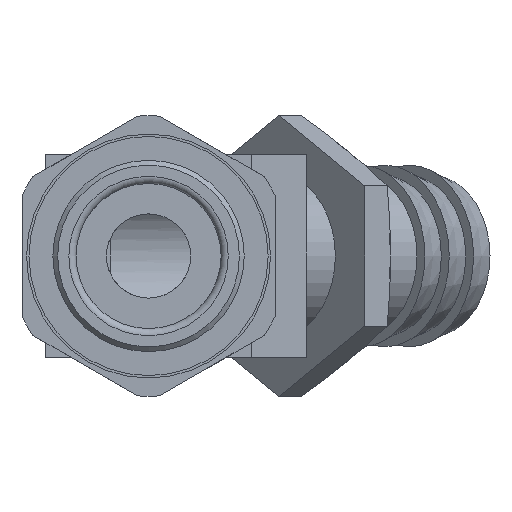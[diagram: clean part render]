
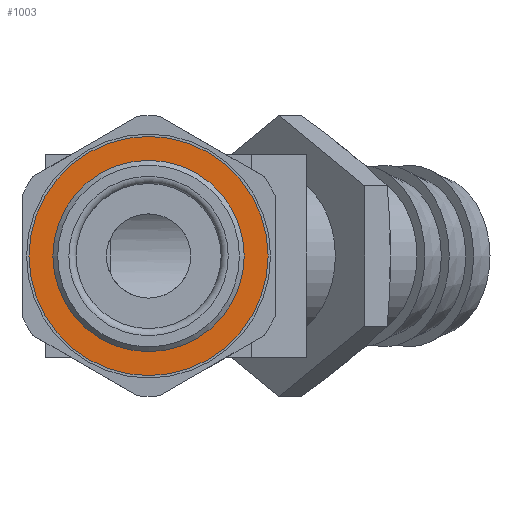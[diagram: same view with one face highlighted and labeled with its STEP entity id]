
A CAD part, left-side view. The second image highlights one B-rep face of the part: STEP entity #1003.
In plain terms, the highlighted planar face has unit normal (-1, 0, 0).
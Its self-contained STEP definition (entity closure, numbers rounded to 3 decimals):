
#142=PLANE('',#1124);
#227=CIRCLE('',#1123,12.);
#228=CIRCLE('',#1125,15.);
#360=ORIENTED_EDGE('',*,*,#611,.F.);
#361=ORIENTED_EDGE('',*,*,#610,.T.);
#610=EDGE_CURVE('',#723,#723,#227,.T.);
#611=EDGE_CURVE('',#724,#724,#228,.T.);
#723=VERTEX_POINT('',#1750);
#724=VERTEX_POINT('',#1753);
#787=EDGE_LOOP('',(#360));
#788=EDGE_LOOP('',(#361));
#887=FACE_BOUND('',#787,.T.);
#888=FACE_BOUND('',#788,.T.);
#1003=ADVANCED_FACE('',(#887,#888),#142,.F.);
#1123=AXIS2_PLACEMENT_3D('',#1749,#1352,#1353);
#1124=AXIS2_PLACEMENT_3D('',#1751,#1354,#1355);
#1125=AXIS2_PLACEMENT_3D('',#1752,#1356,#1357);
#1352=DIRECTION('',(1.,0.,0.));
#1353=DIRECTION('',(0.,0.,-1.));
#1354=DIRECTION('',(1.,0.,0.));
#1355=DIRECTION('',(0.,0.,-1.));
#1356=DIRECTION('',(1.,0.,0.));
#1357=DIRECTION('',(0.,0.,-1.));
#1749=CARTESIAN_POINT('',(0.,0.,0.));
#1750=CARTESIAN_POINT('',(0.,0.,-12.));
#1751=CARTESIAN_POINT('',(0.,12.,0.));
#1752=CARTESIAN_POINT('',(0.,0.,0.));
#1753=CARTESIAN_POINT('',(0.,0.,-15.));
